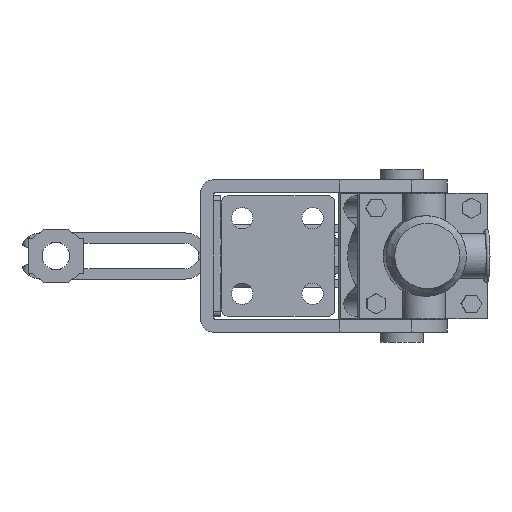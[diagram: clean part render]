
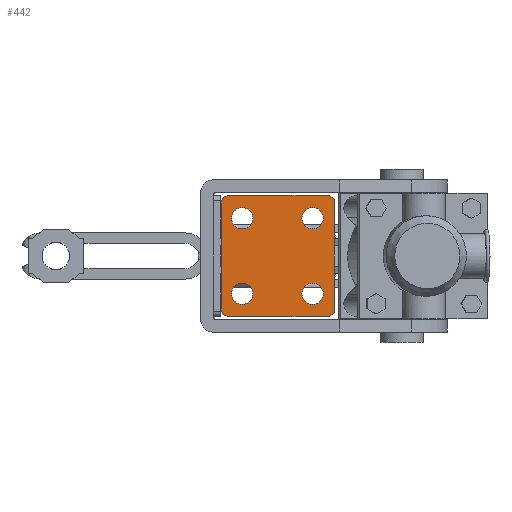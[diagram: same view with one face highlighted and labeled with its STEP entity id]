
A CAD part, front view. The second image highlights one B-rep face of the part: STEP entity #442.
In plain terms, the highlighted planar face has unit normal (0, -1, 0).
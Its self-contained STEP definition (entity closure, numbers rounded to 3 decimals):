
#442 = ADVANCED_FACE( '', ( #893, #894, #895, #896, #897 ), #898, .F. );
#893 = FACE_BOUND( '', #1804, .T. );
#894 = FACE_BOUND( '', #1805, .T. );
#895 = FACE_BOUND( '', #1806, .T. );
#896 = FACE_BOUND( '', #1807, .T. );
#897 = FACE_OUTER_BOUND( '', #1808, .T. );
#898 = PLANE( '', #1809 );
#1804 = EDGE_LOOP( '', ( #2895 ) );
#1805 = EDGE_LOOP( '', ( #2896 ) );
#1806 = EDGE_LOOP( '', ( #2897 ) );
#1807 = EDGE_LOOP( '', ( #2898 ) );
#1808 = EDGE_LOOP( '', ( #2899, #2900, #2901, #2902, #2903, #2904, #2905, #2906 ) );
#1809 = AXIS2_PLACEMENT_3D( '', #2907, #2908, #2909 );
#2895 = ORIENTED_EDGE( '', *, *, #5803, .T. );
#2896 = ORIENTED_EDGE( '', *, *, #5801, .T. );
#2897 = ORIENTED_EDGE( '', *, *, #5799, .T. );
#2898 = ORIENTED_EDGE( '', *, *, #5797, .T. );
#2899 = ORIENTED_EDGE( '', *, *, #5751, .T. );
#2900 = ORIENTED_EDGE( '', *, *, #5762, .F. );
#2901 = ORIENTED_EDGE( '', *, *, #5852, .F. );
#2902 = ORIENTED_EDGE( '', *, *, #5769, .F. );
#2903 = ORIENTED_EDGE( '', *, *, #5747, .F. );
#2904 = ORIENTED_EDGE( '', *, *, #5771, .F. );
#2905 = ORIENTED_EDGE( '', *, *, #5774, .F. );
#2906 = ORIENTED_EDGE( '', *, *, #5853, .F. );
#2907 = CARTESIAN_POINT( '', ( 0., 0., 24. ) );
#2908 = DIRECTION( '', ( 0., 1., 0. ) );
#2909 = DIRECTION( '', ( 0., 0., 1. ) );
#5747 = EDGE_CURVE( '', #6734, #6735, #6736, .T. );
#5751 = EDGE_CURVE( '', #6742, #6743, #6744, .T. );
#5762 = EDGE_CURVE( '', #6763, #6743, #6764, .T. );
#5769 = EDGE_CURVE( '', #6735, #6775, #6776, .T. );
#5771 = EDGE_CURVE( '', #6778, #6734, #6779, .T. );
#5774 = EDGE_CURVE( '', #6783, #6778, #6784, .T. );
#5797 = EDGE_CURVE( '', #6821, #6821, #6822, .T. );
#5799 = EDGE_CURVE( '', #6825, #6825, #6826, .T. );
#5801 = EDGE_CURVE( '', #6829, #6829, #6830, .T. );
#5803 = EDGE_CURVE( '', #6833, #6833, #6834, .T. );
#5852 = EDGE_CURVE( '', #6775, #6763, #6921, .T. );
#5853 = EDGE_CURVE( '', #6742, #6783, #6922, .T. );
#6734 = VERTEX_POINT( '', #8391 );
#6735 = VERTEX_POINT( '', #8392 );
#6736 = LINE( '', #8393, #8394 );
#6742 = VERTEX_POINT( '', #8403 );
#6743 = VERTEX_POINT( '', #8404 );
#6744 = LINE( '', #8405, #8406 );
#6763 = VERTEX_POINT( '', #8431 );
#6764 = CIRCLE( '', #8432, 3. );
#6775 = VERTEX_POINT( '', #8445 );
#6776 = CIRCLE( '', #8446, 3. );
#6778 = VERTEX_POINT( '', #8449 );
#6779 = CIRCLE( '', #8450, 3. );
#6783 = VERTEX_POINT( '', #8455 );
#6784 = LINE( '', #8456, #8457 );
#6821 = VERTEX_POINT( '', #8510 );
#6822 = CIRCLE( '', #8511, 4.25 );
#6825 = VERTEX_POINT( '', #8514 );
#6826 = CIRCLE( '', #8515, 4.25 );
#6829 = VERTEX_POINT( '', #8518 );
#6830 = CIRCLE( '', #8519, 4.25 );
#6833 = VERTEX_POINT( '', #8522 );
#6834 = CIRCLE( '', #8523, 4.25 );
#6921 = LINE( '', #8643, #8644 );
#6922 = CIRCLE( '', #8645, 3. );
#8391 = CARTESIAN_POINT( '', ( 6.1, 0., 24. ) );
#8392 = CARTESIAN_POINT( '', ( 45.3, 0., 24. ) );
#8393 = CARTESIAN_POINT( '', ( 0., 0., 24. ) );
#8394 = VECTOR( '', #11521, 1000. );
#8403 = CARTESIAN_POINT( '', ( 6.1, 0., -24. ) );
#8404 = CARTESIAN_POINT( '', ( 45.3, 0., -24. ) );
#8405 = CARTESIAN_POINT( '', ( 0., 0., -24. ) );
#8406 = VECTOR( '', #11525, 1000. );
#8431 = CARTESIAN_POINT( '', ( 48., 0., -22.308 ) );
#8432 = AXIS2_PLACEMENT_3D( '', #11544, #11545, #11546 );
#8445 = CARTESIAN_POINT( '', ( 48., 0., 22.308 ) );
#8446 = AXIS2_PLACEMENT_3D( '', #11561, #11562, #11563 );
#8449 = CARTESIAN_POINT( '', ( 3.1, 0., 21. ) );
#8450 = AXIS2_PLACEMENT_3D( '', #11565, #11566, #11567 );
#8455 = CARTESIAN_POINT( '', ( 3.1, 0., -21. ) );
#8456 = CARTESIAN_POINT( '', ( 3.1, 0., -21. ) );
#8457 = VECTOR( '', #11572, 1000. );
#8510 = CARTESIAN_POINT( '', ( 15.75, 0., 15. ) );
#8511 = AXIS2_PLACEMENT_3D( '', #11607, #11608, #11609 );
#8514 = CARTESIAN_POINT( '', ( 43.75, 0., 15. ) );
#8515 = AXIS2_PLACEMENT_3D( '', #11613, #11614, #11615 );
#8518 = CARTESIAN_POINT( '', ( 15.75, 0., -15. ) );
#8519 = AXIS2_PLACEMENT_3D( '', #11619, #11620, #11621 );
#8522 = CARTESIAN_POINT( '', ( 43.75, 0., -15. ) );
#8523 = AXIS2_PLACEMENT_3D( '', #11625, #11626, #11627 );
#8643 = CARTESIAN_POINT( '', ( 48., 0., 24. ) );
#8644 = VECTOR( '', #11706, 1000. );
#8645 = AXIS2_PLACEMENT_3D( '', #11707, #11708, #11709 );
#11521 = DIRECTION( '', ( 1., 0., 0. ) );
#11525 = DIRECTION( '', ( 1., 0., 0. ) );
#11544 = CARTESIAN_POINT( '', ( 45.3, 0., -21. ) );
#11545 = DIRECTION( '', ( 0., 1., 0. ) );
#11546 = DIRECTION( '', ( 1., 0., 0. ) );
#11561 = CARTESIAN_POINT( '', ( 45.3, 0., 21. ) );
#11562 = DIRECTION( '', ( 0., 1., 0. ) );
#11563 = DIRECTION( '', ( 1., 0., 0. ) );
#11565 = CARTESIAN_POINT( '', ( 6.1, 0., 21. ) );
#11566 = DIRECTION( '', ( 0., 1., 0. ) );
#11567 = DIRECTION( '', ( 1., 0., 0. ) );
#11572 = DIRECTION( '', ( 0., 0., 1. ) );
#11607 = CARTESIAN_POINT( '', ( 11.5, 0., 15. ) );
#11608 = DIRECTION( '', ( 0., 1., 0. ) );
#11609 = DIRECTION( '', ( 1., 0., 0. ) );
#11613 = CARTESIAN_POINT( '', ( 39.5, 0., 15. ) );
#11614 = DIRECTION( '', ( 0., 1., 0. ) );
#11615 = DIRECTION( '', ( 1., 0., 0. ) );
#11619 = CARTESIAN_POINT( '', ( 11.5, 0., -15. ) );
#11620 = DIRECTION( '', ( 0., 1., 0. ) );
#11621 = DIRECTION( '', ( 1., 0., 0. ) );
#11625 = CARTESIAN_POINT( '', ( 39.5, 0., -15. ) );
#11626 = DIRECTION( '', ( 0., 1., 0. ) );
#11627 = DIRECTION( '', ( 1., 0., 0. ) );
#11706 = DIRECTION( '', ( 0., 0., -1. ) );
#11707 = CARTESIAN_POINT( '', ( 6.1, 0., -21. ) );
#11708 = DIRECTION( '', ( 0., 1., 0. ) );
#11709 = DIRECTION( '', ( 1., 0., 0. ) );
